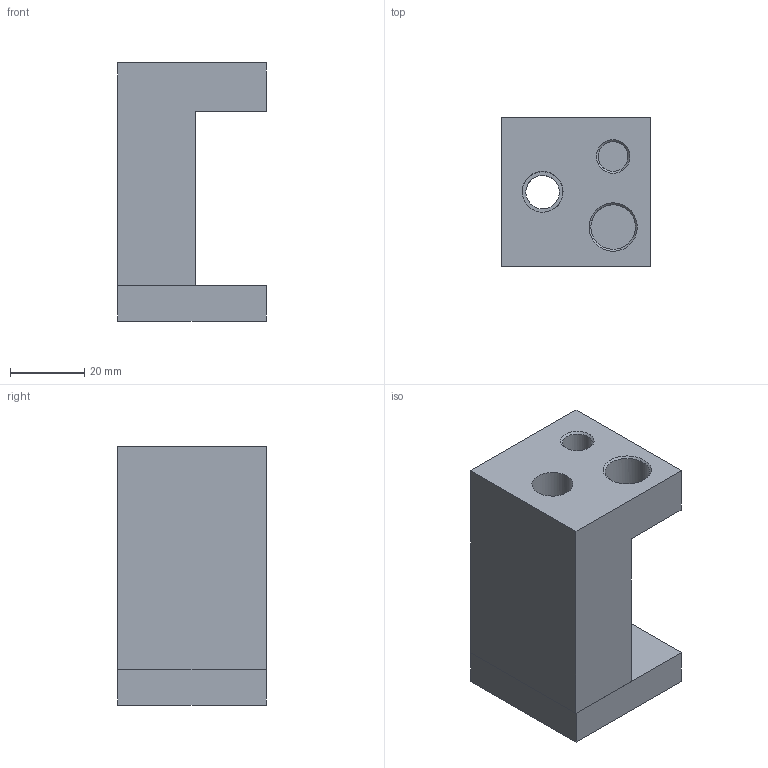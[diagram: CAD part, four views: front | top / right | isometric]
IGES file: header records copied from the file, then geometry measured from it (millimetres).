
Global section: file name: 08.56-F; native system: Autodesk Inventor 2016; preprocessor: unknown; author: CAD5; date: 20160909.144720; units: millimetre
Bounding box: 40 x 40 x 69.5 mm (x, y, z)
Volume: 66487.3 mm3; surface area: 19934.3 mm2
Topology: 4 solids, 4 shells, 60 faces, 162 edges, 114 vertices
Faces by surface type: bspline 60
